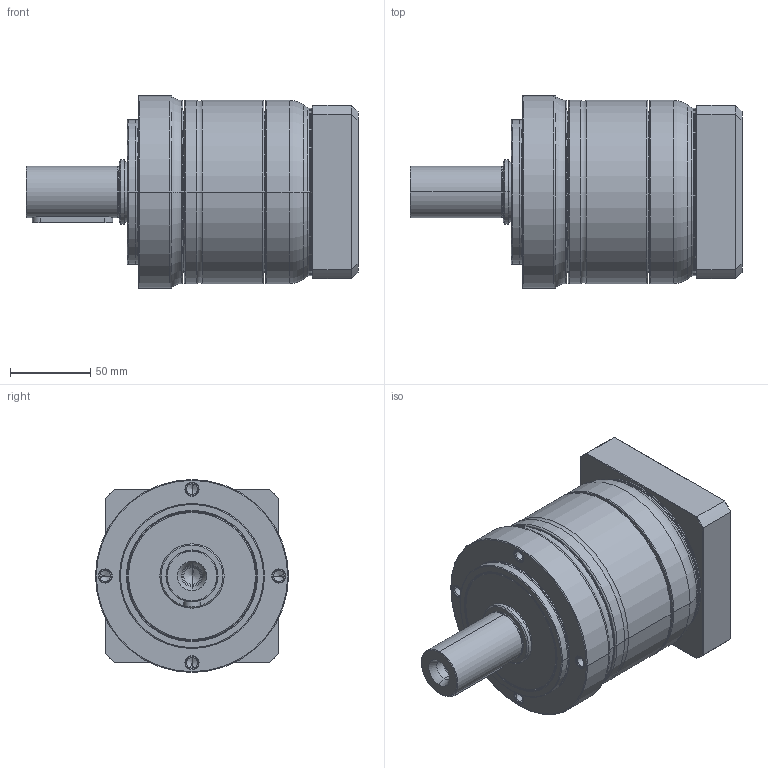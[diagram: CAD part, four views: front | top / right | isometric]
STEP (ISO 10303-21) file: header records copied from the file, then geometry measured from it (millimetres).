
FILE_DESCRIPTION((''),'2;1');
FILE_NAME('PE2-120_1ST_28-P0411600101_ASM','2016-04-25T',('d00435'),(''),'PRO/ENGINEER BY PARAMETRIC TECHNOLOGY CORPORATION, 2008410','PRO/ENGINEER BY PARAMETRIC TECHNOLOGY CORPORATION, 2008410','');
FILE_SCHEMA(('CONFIG_CONTROL_DESIGN'));
Length unit declared in the file: millimetre
Products named in the file (9): P1323410001; P0250400001; P1324400201; P0350401001; P0941402001; P0503600008; P0411600101; P1702500001; PE2-120_1ST_28-P0411600101_ASM
Assembly tree (8 placements, depth 2):
  PE2-120_1ST_28-P0411600101_ASM
    P1323410001
    P0250400001
    P1324400201
    P0350401001
    P0941402001
    P0503600008
    P0411600101
    P1702500001
Bounding box: 206.5 x 120 x 120 mm (x, y, z)
Volume: 1223173.3 mm3; surface area: 225125.8 mm2
Topology: 8 solids, 22 shells, 524 faces, 1171 edges, 692 vertices
Faces by surface type: cylinder 166, cone 144, torus 102, plane 96, bspline 16
Entity records: 19270 total; most frequent: CARTESIAN_POINT 7290, DIRECTION 2761, ORIENTED_EDGE 2214, AXIS2_PLACEMENT_3D 1194, EDGE_CURVE 1135, VERTEX_POINT 692, CIRCLE 659, EDGE_LOOP 605
